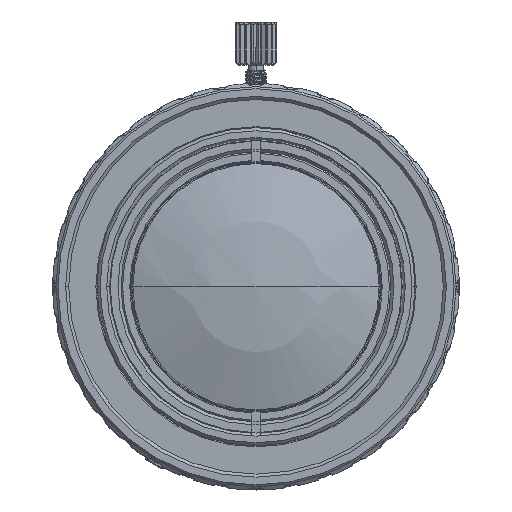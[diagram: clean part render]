
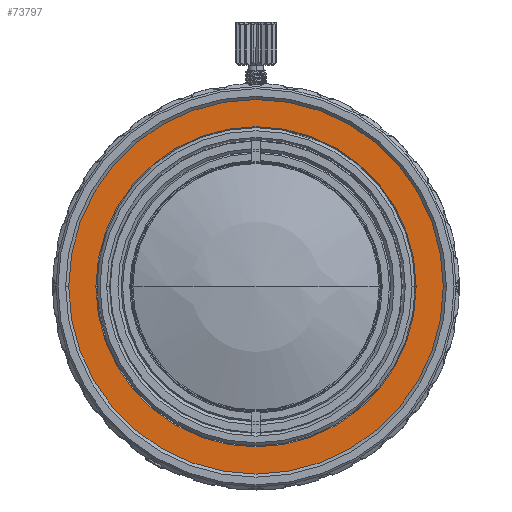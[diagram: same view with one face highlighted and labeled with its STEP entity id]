
A CAD part, left-side view. The second image highlights one B-rep face of the part: STEP entity #73797.
In plain terms, the highlighted planar face has unit normal (-1, 0, 0).
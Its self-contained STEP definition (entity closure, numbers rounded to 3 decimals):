
#70992=CARTESIAN_POINT('',(-58.7,0.,0.));
#70993=DIRECTION('',(1.,0.,0.));
#70994=DIRECTION('',(0.,1.,0.));
#70995=AXIS2_PLACEMENT_3D('',#70992,#70993,#70994);
#70997=CARTESIAN_POINT('',(-58.7,0.,0.));
#70998=DIRECTION('',(1.,0.,0.));
#70999=DIRECTION('',(0.,-1.,0.));
#71000=AXIS2_PLACEMENT_3D('',#70997,#70998,#70999);
#71002=CARTESIAN_POINT('',(-58.7,0.,0.));
#71003=DIRECTION('',(-1.,0.,0.));
#71004=DIRECTION('',(0.,-1.,0.));
#71005=AXIS2_PLACEMENT_3D('',#71002,#71003,#71004);
#71007=CARTESIAN_POINT('',(-58.7,0.,0.));
#71008=DIRECTION('',(-1.,0.,0.));
#71009=DIRECTION('',(0.,1.,0.));
#71010=AXIS2_PLACEMENT_3D('',#71007,#71008,#71009);
#71012=CARTESIAN_POINT('',(-58.7,0.,0.));
#71013=DIRECTION('',(-1.,0.,0.));
#71014=DIRECTION('',(0.,0.,-1.));
#71015=AXIS2_PLACEMENT_3D('',#71012,#71013,#71014);
#72348=CARTESIAN_POINT('',(-58.7,18.65,0.));
#72349=VERTEX_POINT('',#72348);
#72350=CARTESIAN_POINT('',(-58.7,-18.65,0.));
#72351=VERTEX_POINT('',#72350);
#72352=CARTESIAN_POINT('',(-58.7,-15.6,0.));
#72353=CARTESIAN_POINT('',(-58.7,15.6,0.));
#72354=VERTEX_POINT('',#72352);
#72355=VERTEX_POINT('',#72353);
#72356=CARTESIAN_POINT('',(-58.7,0.,-15.6));
#72357=VERTEX_POINT('',#72356);
#73780=CARTESIAN_POINT('',(-58.7,0.,0.));
#73781=DIRECTION('',(1.,0.,0.));
#73782=DIRECTION('',(0.,-1.,0.));
#73783=AXIS2_PLACEMENT_3D('',#73780,#73781,#73782);
#73784=PLANE('',#73783);
#73785=ORIENTED_EDGE('',*,*,#73775,.T.);
#73786=ORIENTED_EDGE('',*,*,#73759,.T.);
#73787=EDGE_LOOP('',(#73785,#73786));
#73788=FACE_OUTER_BOUND('',#73787,.F.);
#73790=ORIENTED_EDGE('',*,*,#73789,.T.);
#73792=ORIENTED_EDGE('',*,*,#73791,.T.);
#73794=ORIENTED_EDGE('',*,*,#73793,.T.);
#73795=EDGE_LOOP('',(#73790,#73792,#73794));
#73796=FACE_BOUND('',#73795,.F.);
#70996=CIRCLE('',#70995,18.65);
#71001=CIRCLE('',#71000,18.65);
#71006=CIRCLE('',#71005,15.6);
#71011=CIRCLE('',#71010,15.6);
#71016=CIRCLE('',#71015,15.6);
#73759=EDGE_CURVE('',#72351,#72349,#71001,.T.);
#73775=EDGE_CURVE('',#72349,#72351,#70996,.T.);
#73789=EDGE_CURVE('',#72354,#72355,#71006,.T.);
#73791=EDGE_CURVE('',#72355,#72357,#71011,.T.);
#73793=EDGE_CURVE('',#72357,#72354,#71016,.T.);
#73797=ADVANCED_FACE('',(#73788,#73796),#73784,.F.);
